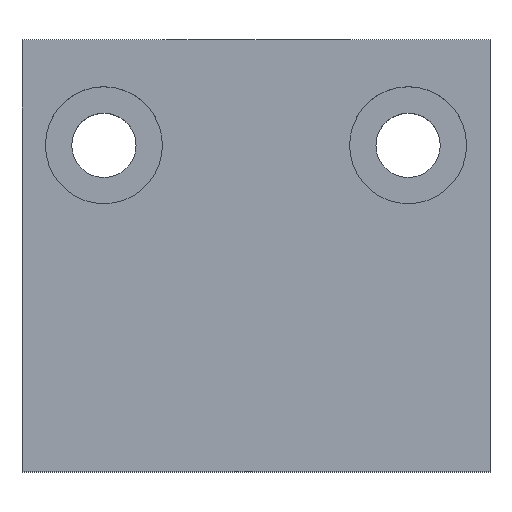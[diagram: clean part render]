
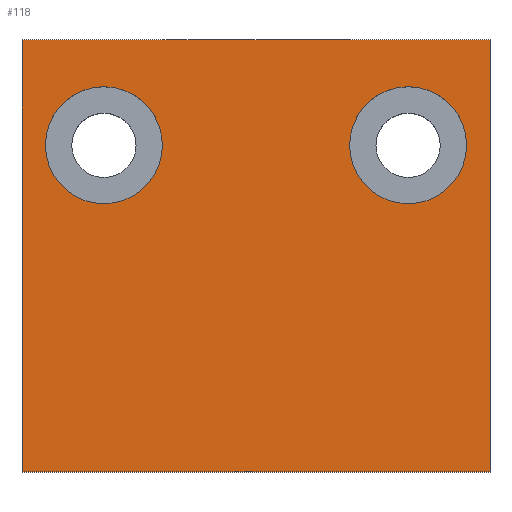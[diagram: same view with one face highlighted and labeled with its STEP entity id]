
A CAD part, top view. The second image highlights one B-rep face of the part: STEP entity #118.
In plain terms, the highlighted planar face has unit normal (0, 0, 1).
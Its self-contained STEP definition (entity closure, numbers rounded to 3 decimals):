
#118 = ADVANCED_FACE( '', ( #220, #221, #222 ), #223, .T. );
#220 = FACE_BOUND( '', #324, .T. );
#221 = FACE_BOUND( '', #325, .T. );
#222 = FACE_OUTER_BOUND( '', #326, .T. );
#223 = PLANE( '', #327 );
#324 = EDGE_LOOP( '', ( #649, #650 ) );
#325 = EDGE_LOOP( '', ( #651, #652 ) );
#326 = EDGE_LOOP( '', ( #653, #654, #655, #656 ) );
#327 = AXIS2_PLACEMENT_3D( '', #657, #658, #659 );
#649 = ORIENTED_EDGE( '', *, *, #687, .T. );
#650 = ORIENTED_EDGE( '', *, *, #734, .T. );
#651 = ORIENTED_EDGE( '', *, *, #675, .T. );
#652 = ORIENTED_EDGE( '', *, *, #740, .T. );
#653 = ORIENTED_EDGE( '', *, *, #759, .T. );
#654 = ORIENTED_EDGE( '', *, *, #750, .T. );
#655 = ORIENTED_EDGE( '', *, *, #754, .T. );
#656 = ORIENTED_EDGE( '', *, *, #757, .T. );
#657 = CARTESIAN_POINT( '', ( 0., 0., 12.25 ) );
#658 = DIRECTION( '', ( 0., 0., 1. ) );
#659 = DIRECTION( '', ( 1., 0., 0. ) );
#675 = EDGE_CURVE( '', #785, #789, #791, .T. );
#687 = EDGE_CURVE( '', #809, #813, #815, .T. );
#734 = EDGE_CURVE( '', #813, #809, #892, .T. );
#740 = EDGE_CURVE( '', #789, #785, #898, .T. );
#750 = EDGE_CURVE( '', #911, #909, #912, .T. );
#754 = EDGE_CURVE( '', #909, #916, #918, .T. );
#757 = EDGE_CURVE( '', #916, #921, #923, .T. );
#759 = EDGE_CURVE( '', #921, #911, #925, .T. );
#785 = VERTEX_POINT( '', #957 );
#789 = VERTEX_POINT( '', #962 );
#791 = CIRCLE( '', #965, 5. );
#809 = VERTEX_POINT( '', #987 );
#813 = VERTEX_POINT( '', #992 );
#815 = CIRCLE( '', #995, 5. );
#892 = CIRCLE( '', #1222, 5. );
#898 = CIRCLE( '', #1228, 5. );
#909 = VERTEX_POINT( '', #1240 );
#911 = VERTEX_POINT( '', #1243 );
#912 = LINE( '', #1244, #1245 );
#916 = VERTEX_POINT( '', #1251 );
#918 = LINE( '', #1254, #1255 );
#921 = VERTEX_POINT( '', #1259 );
#923 = LINE( '', #1262, #1263 );
#925 = LINE( '', #1266, #1267 );
#957 = CARTESIAN_POINT( '', ( 18., 17., 12.25 ) );
#962 = CARTESIAN_POINT( '', ( 8., 17., 12.25 ) );
#965 = AXIS2_PLACEMENT_3D( '', #1297, #1298, #1299 );
#987 = CARTESIAN_POINT( '', ( -8., 17., 12.25 ) );
#992 = CARTESIAN_POINT( '', ( -18., 17., 12.25 ) );
#995 = AXIS2_PLACEMENT_3D( '', #1321, #1322, #1323 );
#1222 = AXIS2_PLACEMENT_3D( '', #1412, #1413, #1414 );
#1228 = AXIS2_PLACEMENT_3D( '', #1430, #1431, #1432 );
#1240 = CARTESIAN_POINT( '', ( 20., -10.9, 12.25 ) );
#1243 = CARTESIAN_POINT( '', ( -20., -10.9, 12.25 ) );
#1244 = CARTESIAN_POINT( '', ( -20., -10.9, 12.25 ) );
#1245 = VECTOR( '', #1456, 1. );
#1251 = CARTESIAN_POINT( '', ( 20., 26., 12.25 ) );
#1254 = CARTESIAN_POINT( '', ( 20., -10.9, 12.25 ) );
#1255 = VECTOR( '', #1460, 1. );
#1259 = CARTESIAN_POINT( '', ( -20., 26., 12.25 ) );
#1262 = CARTESIAN_POINT( '', ( 20., 26., 12.25 ) );
#1263 = VECTOR( '', #1463, 1. );
#1266 = CARTESIAN_POINT( '', ( -20., 26., 12.25 ) );
#1267 = VECTOR( '', #1465, 1. );
#1297 = CARTESIAN_POINT( '', ( 13., 17., 12.25 ) );
#1298 = DIRECTION( '', ( 0., 0., -1. ) );
#1299 = DIRECTION( '', ( 1., 0., 0. ) );
#1321 = CARTESIAN_POINT( '', ( -13., 17., 12.25 ) );
#1322 = DIRECTION( '', ( 0., 0., -1. ) );
#1323 = DIRECTION( '', ( 1., 0., 0. ) );
#1412 = CARTESIAN_POINT( '', ( -13., 17., 12.25 ) );
#1413 = DIRECTION( '', ( 0., 0., -1. ) );
#1414 = DIRECTION( '', ( 1., 0., 0. ) );
#1430 = CARTESIAN_POINT( '', ( 13., 17., 12.25 ) );
#1431 = DIRECTION( '', ( 0., 0., -1. ) );
#1432 = DIRECTION( '', ( 1., 0., 0. ) );
#1456 = DIRECTION( '', ( 1., 0., 0. ) );
#1460 = DIRECTION( '', ( 0., 1., 0. ) );
#1463 = DIRECTION( '', ( -1., 0., 0. ) );
#1465 = DIRECTION( '', ( 0., -1., 0. ) );
